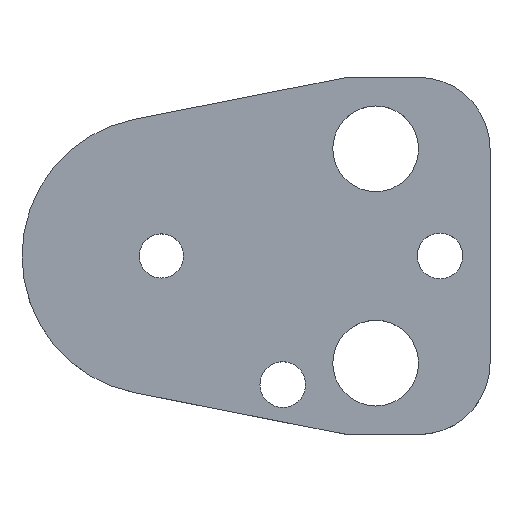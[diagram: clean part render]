
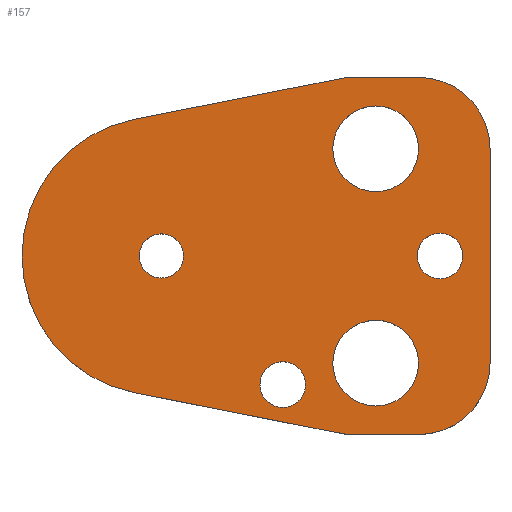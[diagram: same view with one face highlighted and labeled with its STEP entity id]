
A CAD part, top view. The second image highlights one B-rep face of the part: STEP entity #157.
In plain terms, the highlighted planar face has unit normal (0, 0, 1).
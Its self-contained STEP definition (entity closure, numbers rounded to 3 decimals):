
#103=FACE_BOUND('',#207,.T.);
#104=FACE_BOUND('',#208,.T.);
#105=FACE_BOUND('',#209,.T.);
#106=FACE_BOUND('',#210,.T.);
#107=FACE_BOUND('',#211,.T.);
#108=FACE_BOUND('',#212,.T.);
#122=CIRCLE('',#480,10.);
#124=CIRCLE('',#484,10.);
#127=CIRCLE('',#490,19.5);
#138=CIRCLE('',#503,3.2);
#139=CIRCLE('',#504,3.2);
#140=CIRCLE('',#505,6.);
#141=CIRCLE('',#506,6.);
#142=CIRCLE('',#507,6.);
#143=CIRCLE('',#508,6.);
#144=CIRCLE('',#509,3.2);
#145=CIRCLE('',#510,3.2);
#146=CIRCLE('',#511,3.1);
#147=CIRCLE('',#512,3.1);
#157=ADVANCED_FACE('',(#103,#104,#105,#106,#107,#108),#174,.T.);
#174=PLANE('',#513);
#207=EDGE_LOOP('',(#273,#274,#275,#276,#277,#278,#279,#280));
#208=EDGE_LOOP('',(#281,#282));
#209=EDGE_LOOP('',(#283,#284));
#210=EDGE_LOOP('',(#285,#286));
#211=EDGE_LOOP('',(#287,#288));
#212=EDGE_LOOP('',(#289,#290));
#273=ORIENTED_EDGE('',*,*,#368,.T.);
#274=ORIENTED_EDGE('',*,*,#372,.T.);
#275=ORIENTED_EDGE('',*,*,#375,.T.);
#276=ORIENTED_EDGE('',*,*,#378,.T.);
#277=ORIENTED_EDGE('',*,*,#381,.T.);
#278=ORIENTED_EDGE('',*,*,#384,.T.);
#279=ORIENTED_EDGE('',*,*,#387,.T.);
#280=ORIENTED_EDGE('',*,*,#390,.T.);
#281=ORIENTED_EDGE('',*,*,#401,.T.);
#282=ORIENTED_EDGE('',*,*,#402,.T.);
#283=ORIENTED_EDGE('',*,*,#403,.T.);
#284=ORIENTED_EDGE('',*,*,#404,.T.);
#285=ORIENTED_EDGE('',*,*,#405,.T.);
#286=ORIENTED_EDGE('',*,*,#406,.T.);
#287=ORIENTED_EDGE('',*,*,#407,.T.);
#288=ORIENTED_EDGE('',*,*,#408,.T.);
#289=ORIENTED_EDGE('',*,*,#409,.T.);
#290=ORIENTED_EDGE('',*,*,#410,.T.);
#332=VERTEX_POINT('',#649);
#333=VERTEX_POINT('',#651);
#336=VERTEX_POINT('',#658);
#338=VERTEX_POINT('',#664);
#340=VERTEX_POINT('',#670);
#342=VERTEX_POINT('',#676);
#344=VERTEX_POINT('',#682);
#346=VERTEX_POINT('',#688);
#357=VERTEX_POINT('',#717);
#358=VERTEX_POINT('',#718);
#359=VERTEX_POINT('',#721);
#360=VERTEX_POINT('',#722);
#361=VERTEX_POINT('',#725);
#362=VERTEX_POINT('',#726);
#363=VERTEX_POINT('',#729);
#364=VERTEX_POINT('',#730);
#365=VERTEX_POINT('',#733);
#366=VERTEX_POINT('',#734);
#368=EDGE_CURVE('',#333,#332,#422,.T.);
#372=EDGE_CURVE('',#332,#336,#426,.T.);
#375=EDGE_CURVE('',#336,#338,#122,.T.);
#378=EDGE_CURVE('',#338,#340,#430,.T.);
#381=EDGE_CURVE('',#340,#342,#124,.T.);
#384=EDGE_CURVE('',#342,#344,#434,.T.);
#387=EDGE_CURVE('',#344,#346,#437,.T.);
#390=EDGE_CURVE('',#346,#333,#127,.T.);
#401=EDGE_CURVE('',#357,#358,#138,.T.);
#402=EDGE_CURVE('',#358,#357,#139,.T.);
#403=EDGE_CURVE('',#359,#360,#140,.T.);
#404=EDGE_CURVE('',#360,#359,#141,.T.);
#405=EDGE_CURVE('',#361,#362,#142,.T.);
#406=EDGE_CURVE('',#362,#361,#143,.T.);
#407=EDGE_CURVE('',#363,#364,#144,.T.);
#408=EDGE_CURVE('',#364,#363,#145,.T.);
#409=EDGE_CURVE('',#365,#366,#146,.T.);
#410=EDGE_CURVE('',#366,#365,#147,.T.);
#422=LINE('',#650,#450);
#426=LINE('',#659,#454);
#430=LINE('',#671,#458);
#434=LINE('',#683,#462);
#437=LINE('',#689,#465);
#450=VECTOR('',#527,1.);
#454=VECTOR('',#533,1.);
#458=VECTOR('',#545,1.);
#462=VECTOR('',#557,1.);
#465=VECTOR('',#562,1.);
#480=AXIS2_PLACEMENT_3D('',#665,#538,#539);
#484=AXIS2_PLACEMENT_3D('',#677,#550,#551);
#490=AXIS2_PLACEMENT_3D('',#693,#568,#569);
#503=AXIS2_PLACEMENT_3D('',#716,#594,#595);
#504=AXIS2_PLACEMENT_3D('',#719,#596,#597);
#505=AXIS2_PLACEMENT_3D('',#720,#598,#599);
#506=AXIS2_PLACEMENT_3D('',#723,#600,#601);
#507=AXIS2_PLACEMENT_3D('',#724,#602,#603);
#508=AXIS2_PLACEMENT_3D('',#727,#604,#605);
#509=AXIS2_PLACEMENT_3D('',#728,#606,#607);
#510=AXIS2_PLACEMENT_3D('',#731,#608,#609);
#511=AXIS2_PLACEMENT_3D('',#732,#610,#611);
#512=AXIS2_PLACEMENT_3D('',#735,#612,#613);
#513=AXIS2_PLACEMENT_3D('',#736,#614,#615);
#527=DIRECTION('',(0.981,-0.193,0.));
#533=DIRECTION('',(1.,0.,0.));
#538=DIRECTION('',(0.,0.,1.));
#539=DIRECTION('',(-0.707,0.707,0.));
#545=DIRECTION('',(0.,1.,0.));
#550=DIRECTION('',(0.,0.,1.));
#551=DIRECTION('',(-0.707,-0.707,0.));
#557=DIRECTION('',(-1.,0.,0.));
#562=DIRECTION('',(-0.981,-0.193,0.));
#568=DIRECTION('',(0.,0.,1.));
#569=DIRECTION('',(1.,0.,0.));
#594=DIRECTION('',(0.,0.,-1.));
#595=DIRECTION('',(-1.,0.,0.));
#596=DIRECTION('',(0.,0.,-1.));
#597=DIRECTION('',(1.,0.,0.));
#598=DIRECTION('',(0.,0.,-1.));
#599=DIRECTION('',(-1.,0.,0.));
#600=DIRECTION('',(0.,0.,-1.));
#601=DIRECTION('',(1.,0.,0.));
#602=DIRECTION('',(0.,0.,-1.));
#603=DIRECTION('',(-1.,0.,0.));
#604=DIRECTION('',(0.,0.,-1.));
#605=DIRECTION('',(1.,0.,0.));
#606=DIRECTION('',(0.,0.,-1.));
#607=DIRECTION('',(-1.,0.,0.));
#608=DIRECTION('',(0.,0.,-1.));
#609=DIRECTION('',(1.,0.,0.));
#610=DIRECTION('',(0.,0.,-1.));
#611=DIRECTION('',(-1.,0.,0.));
#612=DIRECTION('',(0.,0.,-1.));
#613=DIRECTION('',(1.,0.,0.));
#614=DIRECTION('',(0.,0.,1.));
#615=DIRECTION('',(0.981,-0.193,0.));
#649=CARTESIAN_POINT('',(26.,-25.,7.));
#650=CARTESIAN_POINT('',(26.,-25.,7.));
#651=CARTESIAN_POINT('',(-3.771,-19.132,7.));
#658=CARTESIAN_POINT('',(36.,-25.,7.));
#659=CARTESIAN_POINT('',(26.,-25.,7.));
#664=CARTESIAN_POINT('',(46.,-15.,7.));
#665=CARTESIAN_POINT('',(36.,-15.,7.));
#670=CARTESIAN_POINT('',(46.,15.,7.));
#671=CARTESIAN_POINT('',(46.,15.,7.));
#676=CARTESIAN_POINT('',(36.,25.,7.));
#677=CARTESIAN_POINT('',(36.,15.,7.));
#682=CARTESIAN_POINT('',(26.,25.,7.));
#683=CARTESIAN_POINT('',(26.,25.,7.));
#688=CARTESIAN_POINT('',(-3.771,19.132,7.));
#689=CARTESIAN_POINT('',(26.,25.,7.));
#693=CARTESIAN_POINT('',(0.,0.,7.));
#716=CARTESIAN_POINT('',(39.,0.,7.));
#717=CARTESIAN_POINT('',(39.,3.2,7.));
#718=CARTESIAN_POINT('',(39.,-3.2,7.));
#719=CARTESIAN_POINT('',(39.,0.,7.));
#720=CARTESIAN_POINT('',(30.,15.,7.));
#721=CARTESIAN_POINT('',(30.,21.,7.));
#722=CARTESIAN_POINT('',(30.,9.,7.));
#723=CARTESIAN_POINT('',(30.,15.,7.));
#724=CARTESIAN_POINT('',(30.,-15.,7.));
#725=CARTESIAN_POINT('',(30.,-9.,7.));
#726=CARTESIAN_POINT('',(30.,-21.,7.));
#727=CARTESIAN_POINT('',(30.,-15.,7.));
#728=CARTESIAN_POINT('',(17.,-18.,7.));
#729=CARTESIAN_POINT('',(17.,-14.8,7.));
#730=CARTESIAN_POINT('',(17.,-21.2,7.));
#731=CARTESIAN_POINT('',(17.,-18.,7.));
#732=CARTESIAN_POINT('',(0.,0.,7.));
#733=CARTESIAN_POINT('',(0.,3.1,7.));
#734=CARTESIAN_POINT('',(0.,-3.1,7.));
#735=CARTESIAN_POINT('',(0.,0.,7.));
#736=CARTESIAN_POINT('',(-3.771,-19.132,7.));
